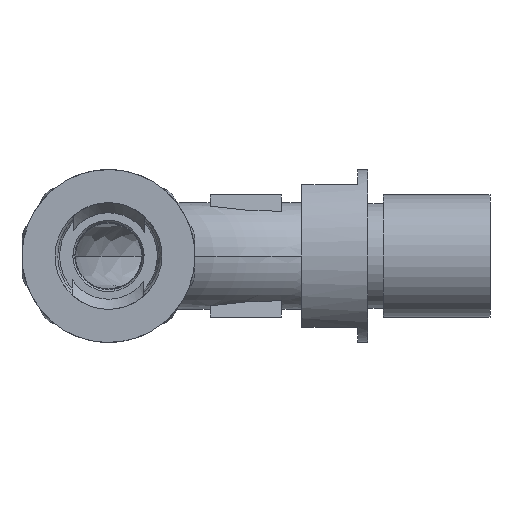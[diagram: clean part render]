
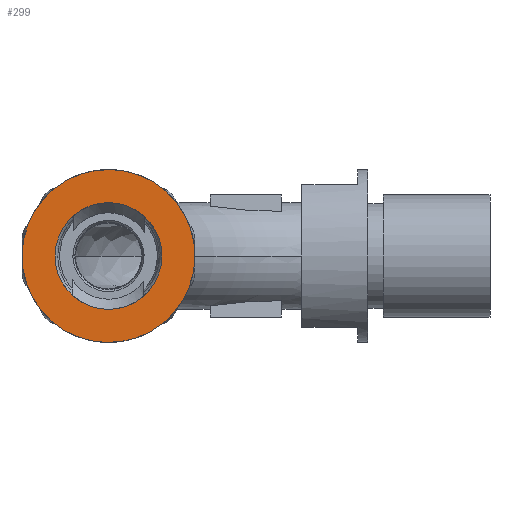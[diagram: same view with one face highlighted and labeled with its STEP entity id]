
A CAD part, front view. The second image highlights one B-rep face of the part: STEP entity #299.
In plain terms, the highlighted planar face has unit normal (0, -1, 0) as drawn and (0, 1, 0) by its records, which use the part's own axes.
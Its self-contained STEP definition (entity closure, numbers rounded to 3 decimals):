
#163 = VERTEX_POINT ( 'NONE', #3717 ) ;
#182 = CARTESIAN_POINT ( 'NONE',  ( -2.282, 5.814, -8.5 ) ) ;
#299 = ADVANCED_FACE ( 'NONE', ( #325, #5194 ), #4484, .F. ) ;
#325 = FACE_OUTER_BOUND ( 'NONE', #475, .T. ) ;
#472 = VERTEX_POINT ( 'NONE', #500 ) ;
#475 = EDGE_LOOP ( 'NONE', ( #5403, #6107 ) ) ;
#500 = CARTESIAN_POINT ( 'NONE',  ( -2.282, 5.814, 8.5 ) ) ;
#759 = CIRCLE ( 'NONE', #6137, 5.25 ) ;
#917 = AXIS2_PLACEMENT_3D ( 'NONE', #6701, #4554, #7317 ) ;
#1003 = CARTESIAN_POINT ( 'NONE',  ( -7.532, 5.814, 0. ) ) ;
#1090 = AXIS2_PLACEMENT_3D ( 'NONE', #3576, #8314, #4930 ) ;
#1267 = EDGE_CURVE ( 'NONE', #472, #2284, #8713, .T. ) ;
#1335 = DIRECTION ( 'NONE',  ( 0., 0., -1. ) ) ;
#2284 = VERTEX_POINT ( 'NONE', #182 ) ;
#2374 = VERTEX_POINT ( 'NONE', #6618 ) ;
#2801 = DIRECTION ( 'NONE',  ( 0., 0., -1. ) ) ;
#2891 = CARTESIAN_POINT ( 'NONE',  ( -2.282, 5.814, 0. ) ) ;
#3065 = EDGE_CURVE ( 'NONE', #163, #2374, #759, .T. ) ;
#3438 = CARTESIAN_POINT ( 'NONE',  ( -2.282, 5.814, 0. ) ) ;
#3576 = CARTESIAN_POINT ( 'NONE',  ( -2.282, 5.814, 0. ) ) ;
#3717 = CARTESIAN_POINT ( 'NONE',  ( -2.282, 5.814, 5.25 ) ) ;
#4075 = ORIENTED_EDGE ( 'NONE', *, *, #3065, .T. ) ;
#4484 = PLANE ( 'NONE',  #5095 ) ;
#4554 = DIRECTION ( 'NONE',  ( 0., -1., 0. ) ) ;
#4793 = CIRCLE ( 'NONE', #1090, 5.25 ) ;
#4930 = DIRECTION ( 'NONE',  ( 0., 0., -1. ) ) ;
#5013 = CIRCLE ( 'NONE', #5766, 8.5 ) ;
#5095 = AXIS2_PLACEMENT_3D ( 'NONE', #1003, #6591, #5888 ) ;
#5194 = FACE_BOUND ( 'NONE', #5592, .T. ) ;
#5403 = ORIENTED_EDGE ( 'NONE', *, *, #5726, .F. ) ;
#5541 = EDGE_CURVE ( 'NONE', #2374, #163, #4793, .T. ) ;
#5592 = EDGE_LOOP ( 'NONE', ( #8250, #4075 ) ) ;
#5726 = EDGE_CURVE ( 'NONE', #2284, #472, #5013, .T. ) ;
#5766 = AXIS2_PLACEMENT_3D ( 'NONE', #3438, #8987, #1335 ) ;
#5888 = DIRECTION ( 'NONE',  ( 0., 0., -1. ) ) ;
#6107 = ORIENTED_EDGE ( 'NONE', *, *, #1267, .F. ) ;
#6137 = AXIS2_PLACEMENT_3D ( 'NONE', #2891, #7769, #2801 ) ;
#6591 = DIRECTION ( 'NONE',  ( 0., -1., 0. ) ) ;
#6618 = CARTESIAN_POINT ( 'NONE',  ( -2.282, 5.814, -5.25 ) ) ;
#6701 = CARTESIAN_POINT ( 'NONE',  ( -2.282, 5.814, 0. ) ) ;
#7317 = DIRECTION ( 'NONE',  ( 0., 0., -1. ) ) ;
#7769 = DIRECTION ( 'NONE',  ( 0., -1., 0. ) ) ;
#8250 = ORIENTED_EDGE ( 'NONE', *, *, #5541, .T. ) ;
#8314 = DIRECTION ( 'NONE',  ( 0., -1., 0. ) ) ;
#8713 = CIRCLE ( 'NONE', #917, 8.5 ) ;
#8987 = DIRECTION ( 'NONE',  ( 0., -1., 0. ) ) ;
